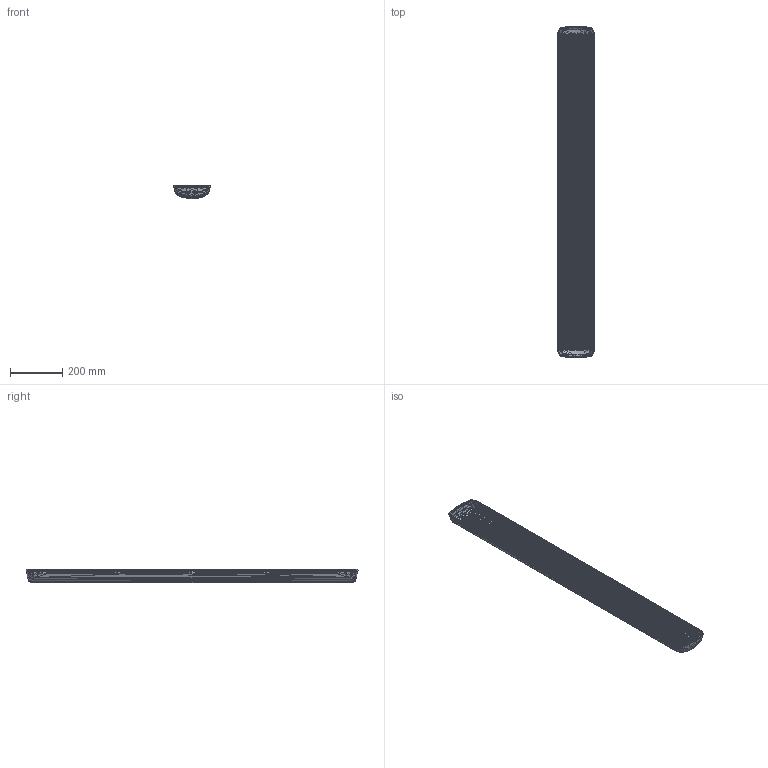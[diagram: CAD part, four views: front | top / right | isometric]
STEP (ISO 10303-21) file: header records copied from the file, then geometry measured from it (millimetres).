
FILE_DESCRIPTION((''),'2;1');
FILE_NAME('051279', '2026-01-23T09:04:12', (''), (''), 'ImageToStl.com STEP Converter','', '');
FILE_SCHEMA(('AUTOMOTIVE_DESIGN_CC2'));
Length unit declared in the file: metre
Products named in the file (1): product0
Bounding box: 142.1 x 1274.05 x 52 mm (x, y, z)
Surface area: 529402.5 mm2 (no closed solid volume)
Topology: 0 solids, 31528 shells, 31528 faces, 94584 edges, 15766 vertices
Faces by surface type: plane 31528
Entity records: 725176 total; most frequent: DIRECTION 157642, ORIENTED_EDGE 94584, EDGE_CURVE 94584, LINE 94584, VECTOR 94584, AXIS2_PLACEMENT_3D 31529, FACE_SURFACE 31528, PLANE 31528
